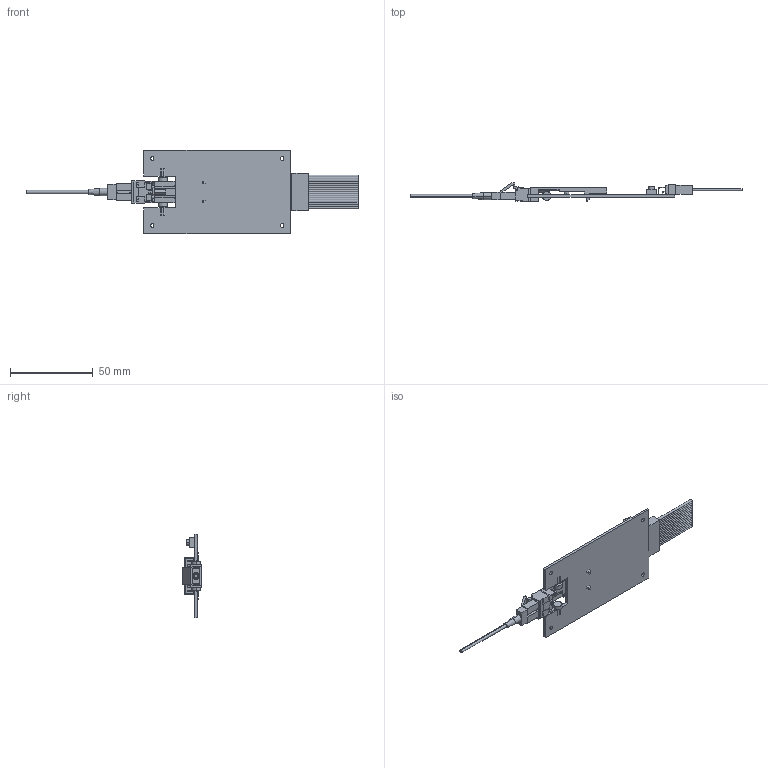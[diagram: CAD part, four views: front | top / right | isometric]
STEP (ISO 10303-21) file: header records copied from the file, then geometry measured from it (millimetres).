
FILE_DESCRIPTION (( 'STEP AP203' ), '1' );
FILE_NAME ('MR340-0.STEP', '2018-04-09T21:40:29', ( '' ), ( '' ), 'SwSTEP 2.0', 'SolidWorks 2017', '' );
FILE_SCHEMA (( 'CONFIG_CONTROL_DESIGN' ));
Length unit declared in the file: inch
Products named in the file (10): LC DUPLEX CONN 570; momentary switch; HEADER 2 X 8 90 DEG SHROUDED; 78-0302-32; DETECTOR 2; MR340-0; PCB MR302-2; CABLE CONNECTOR; LABEL-MR340-0; FIBER
Assembly tree (10 placements, depth 2):
  MR340-0
    PCB MR302-2
    78-0302-32
    LC DUPLEX CONN 570
    FIBER
    DETECTOR 2  x2
    HEADER 2 X 8 90 DEG SHROUDED
    CABLE CONNECTOR
    momentary switch
    LABEL-MR340-0
Bounding box: 201.17 x 11.21 x 50.8 mm (x, y, z)
Volume: 12647.4 mm3; surface area: 19413 mm2
Topology: 11 solids, 11 shells, 956 faces, 2555 edges, 1700 vertices
Faces by surface type: plane 663, cylinder 153, bspline 138, cone 2
Entity records: 37397 total; most frequent: CARTESIAN_POINT 13328, ORIENTED_EDGE 5050, DIRECTION 4169, EDGE_CURVE 2525, LINE 1951, VECTOR 1951, VERTEX_POINT 1680, AXIS2_PLACEMENT_3D 1109
